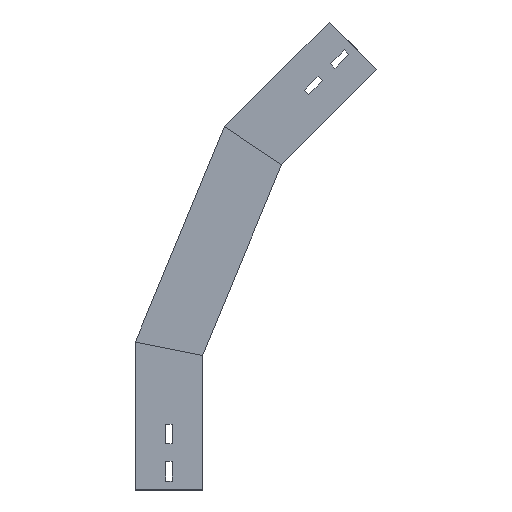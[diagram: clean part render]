
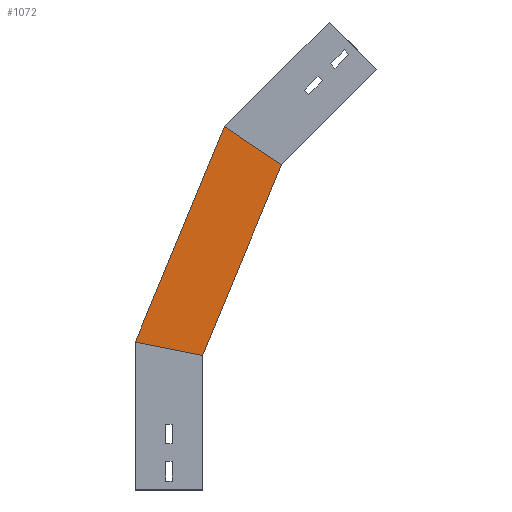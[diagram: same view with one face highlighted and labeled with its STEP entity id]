
A CAD part, left-side view. The second image highlights one B-rep face of the part: STEP entity #1072.
In plain terms, the highlighted planar face has unit normal (-1, 0, 0) as drawn and (1, 0, 0) by its records, which use the part's own axes.
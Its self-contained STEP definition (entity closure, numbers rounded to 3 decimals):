
#33 = LINE ( 'NONE', #253, #882 ) ;
#125 = ORIENTED_EDGE ( 'NONE', *, *, #757, .T. ) ;
#159 = CARTESIAN_POINT ( 'NONE',  ( 0., -88.017, 362.492 ) ) ;
#176 = VECTOR ( 'NONE', #1168, 1000. ) ;
#208 = ORIENTED_EDGE ( 'NONE', *, *, #1204, .F. ) ;
#247 = VERTEX_POINT ( 'NONE', #159 ) ;
#252 = VERTEX_POINT ( 'NONE', #1439 ) ;
#253 = CARTESIAN_POINT ( 'NONE',  ( 0., 6.318, 134.746 ) ) ;
#326 = VERTEX_POINT ( 'NONE', #1056 ) ;
#327 = PLANE ( 'NONE',  #478 ) ;
#401 = CARTESIAN_POINT ( 'NONE',  ( 0., -128.004, 335.774 ) ) ;
#461 = FACE_OUTER_BOUND ( 'NONE', #1345, .T. ) ;
#478 = AXIS2_PLACEMENT_3D ( 'NONE', #1248, #1269, #898 ) ;
#599 = CARTESIAN_POINT ( 'NONE',  ( 0., 75.609, 163.448 ) ) ;
#628 = DIRECTION ( 'NONE',  ( 0., -0.383, 0.924 ) ) ;
#658 = ORIENTED_EDGE ( 'NONE', *, *, #1230, .T. ) ;
#713 = LINE ( 'NONE', #599, #176 ) ;
#733 = VECTOR ( 'NONE', #1472, 1000. ) ;
#757 = EDGE_CURVE ( 'NONE', #1122, #252, #713, .T. ) ;
#829 = CARTESIAN_POINT ( 'NONE',  ( 0., 75., 164.918 ) ) ;
#882 = VECTOR ( 'NONE', #628, 1000. ) ;
#898 = DIRECTION ( 'NONE',  ( 0., 0., -1. ) ) ;
#912 = EDGE_CURVE ( 'NONE', #1122, #326, #1316, .T. ) ;
#1056 = CARTESIAN_POINT ( 'NONE',  ( 0., 0., 150. ) ) ;
#1072 = ADVANCED_FACE ( 'NONE', ( #461 ), #327, .T. ) ;
#1122 = VERTEX_POINT ( 'NONE', #829 ) ;
#1168 = DIRECTION ( 'NONE',  ( 0., -0.383, 0.924 ) ) ;
#1183 = DIRECTION ( 'NONE',  ( 0., -0.831, -0.556 ) ) ;
#1188 = CARTESIAN_POINT ( 'NONE',  ( 0., -28.701, 144.291 ) ) ;
#1204 = EDGE_CURVE ( 'NONE', #326, #247, #33, .T. ) ;
#1230 = EDGE_CURVE ( 'NONE', #252, #247, #1435, .T. ) ;
#1248 = CARTESIAN_POINT ( 'NONE',  ( 0., 6.318, 134.746 ) ) ;
#1269 = DIRECTION ( 'NONE',  ( 1., 0., 0. ) ) ;
#1316 = LINE ( 'NONE', #1188, #733 ) ;
#1345 = EDGE_LOOP ( 'NONE', ( #125, #658, #208, #1497 ) ) ;
#1382 = VECTOR ( 'NONE', #1183, 1000. ) ;
#1435 = LINE ( 'NONE', #401, #1382 ) ;
#1439 = CARTESIAN_POINT ( 'NONE',  ( 0., -24.435, 404.976 ) ) ;
#1472 = DIRECTION ( 'NONE',  ( 0., -0.981, -0.195 ) ) ;
#1497 = ORIENTED_EDGE ( 'NONE', *, *, #912, .F. ) ;
